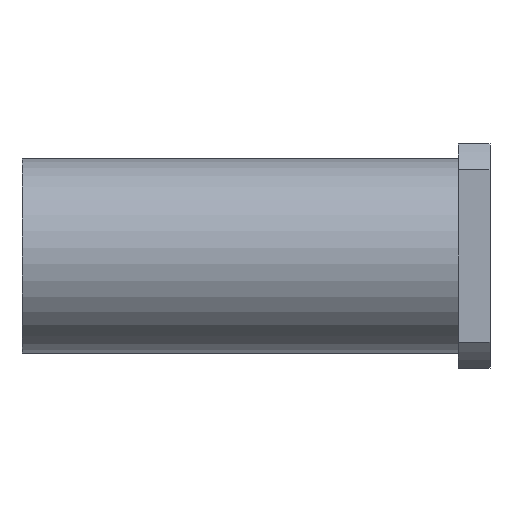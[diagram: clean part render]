
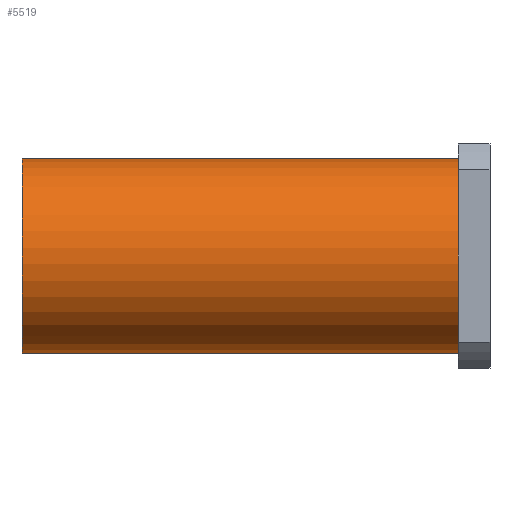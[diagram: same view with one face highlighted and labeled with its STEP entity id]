
A CAD part, front view. The second image highlights one B-rep face of the part: STEP entity #5519.
In plain terms, the highlighted cylindrical face has radius 40 mm (diameter 80 mm), a full revolution.
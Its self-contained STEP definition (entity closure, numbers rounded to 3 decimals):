
#80=CYLINDRICAL_SURFACE('',#5876,40.);
#115=CIRCLE('',#5877,40.);
#116=CIRCLE('',#5878,40.);
#1696=ORIENTED_EDGE('',*,*,#3287,.T.);
#1697=ORIENTED_EDGE('',*,*,#3288,.F.);
#3287=EDGE_CURVE('',#4081,#4081,#115,.T.);
#3288=EDGE_CURVE('',#4082,#4082,#116,.T.);
#4081=VERTEX_POINT('',#8726);
#4082=VERTEX_POINT('',#8728);
#4525=EDGE_LOOP('',(#1696));
#4526=EDGE_LOOP('',(#1697));
#4920=FACE_BOUND('',#4525,.T.);
#4921=FACE_BOUND('',#4526,.T.);
#5519=ADVANCED_FACE('',(#4920,#4921),#80,.T.);
#5876=AXIS2_PLACEMENT_3D('',#8724,#6403,#6404);
#5877=AXIS2_PLACEMENT_3D('',#8725,#6405,#6406);
#5878=AXIS2_PLACEMENT_3D('',#8727,#6407,#6408);
#6403=DIRECTION('',(-1.,0.,0.));
#6404=DIRECTION('',(0.,-0.707,0.707));
#6405=DIRECTION('',(1.,0.,0.));
#6406=DIRECTION('',(0.,0.707,-0.707));
#6407=DIRECTION('',(1.,0.,0.));
#6408=DIRECTION('',(0.,0.707,-0.707));
#8724=CARTESIAN_POINT('',(96.,0.,0.));
#8725=CARTESIAN_POINT('',(-96.,0.,0.));
#8726=CARTESIAN_POINT('',(-96.,28.284,-28.284));
#8727=CARTESIAN_POINT('',(83.,0.,0.));
#8728=CARTESIAN_POINT('',(83.,28.284,-28.284));
